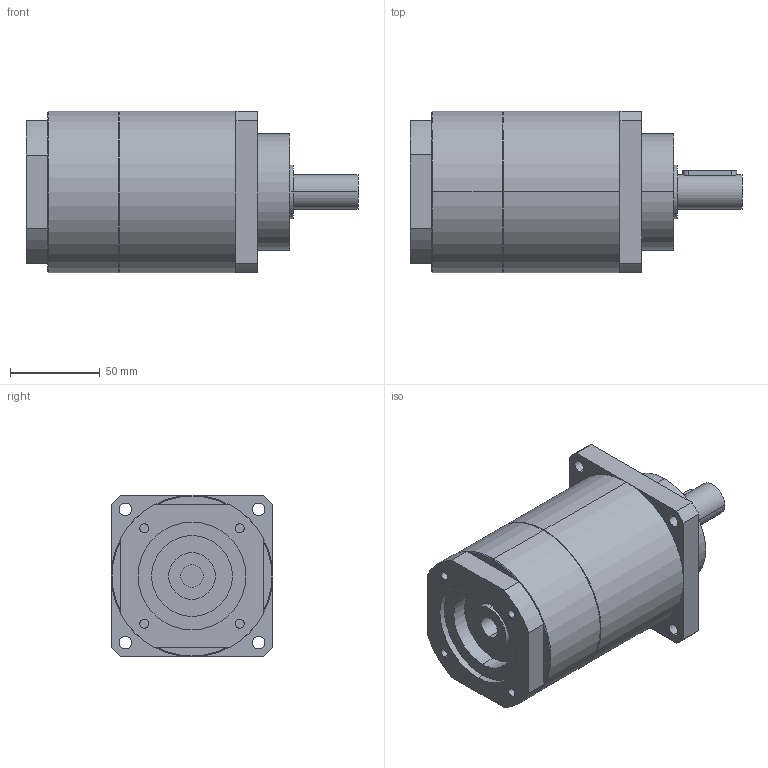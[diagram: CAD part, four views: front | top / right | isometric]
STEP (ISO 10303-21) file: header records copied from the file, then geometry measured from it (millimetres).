
FILE_DESCRIPTION(('CoCreate Modeling STEP Export'),'2;1');
FILE_NAME('GPT90_ig-9-12-16-20-25-28-35-40-50-70-100_19_B5T_12.7_P23.stp','2015-02-04T11:27:48',(''),(''),'CoCreate Modeling STEP processor for AP214 (Solid Model)','CoCreate Modeling 16.00C 25-Feb-2009 (C) Parametric Technology GmbH','');
FILE_SCHEMA(('AUTOMOTIVE_DESIGN { 1 0 10303 214 1 1 1 1 }'));
Length unit declared in the file: millimetre
Products named in the file (2): GPT90_ig-9-12-16-20-25-28-35-40-50-70-100_19_B5T_12.7_P23
Assembly tree (1 placements, depth 2):
  GPT90_ig-9-12-16-20-25-28-35-40-50-70-100_19_B5T_12.7_P23
    GPT90_ig-9-12-16-20-25-28-35-40-50-70-100_19_B5T_12.7_P23
Bounding box: 185 x 90 x 90 mm (x, y, z)
Volume: 876437.8 mm3; surface area: 65007.8 mm2
Topology: 1 solids, 1 shells, 88 faces, 221 edges, 148 vertices
Faces by surface type: cylinder 46, plane 38, cone 4
Entity records: 2699 total; most frequent: CARTESIAN_POINT 754, ORIENTED_EDGE 442, DIRECTION 330, EDGE_CURVE 221, VERTEX_POINT 148, AXIS2_PLACEMENT_3D 121, EDGE_LOOP 109, VECTOR 88
